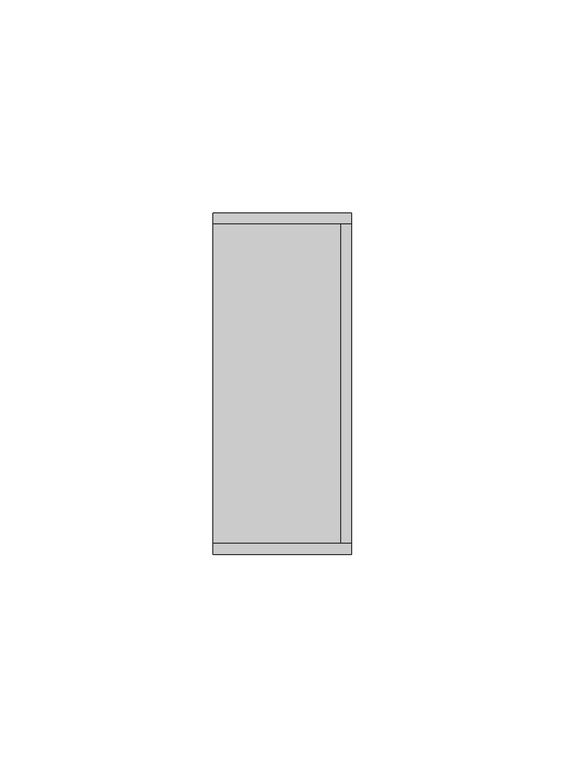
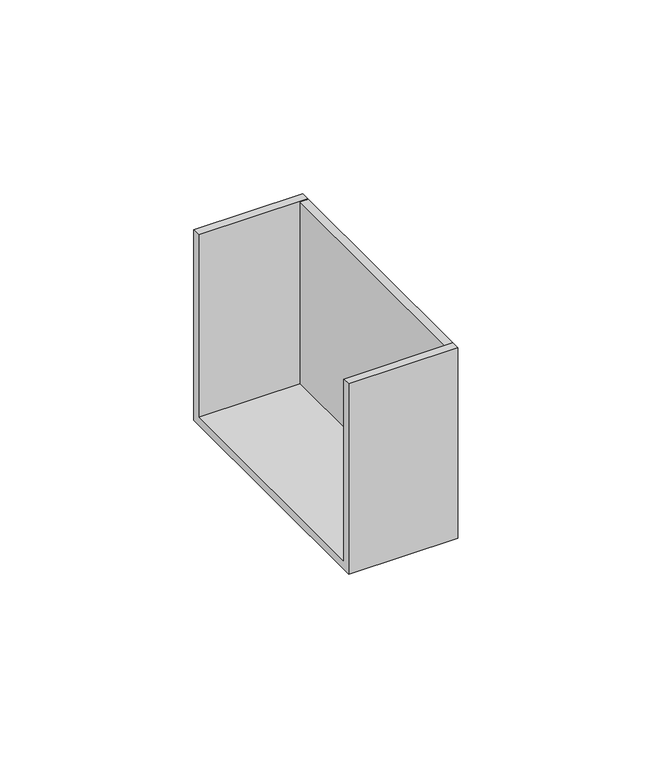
"""IFC4 building model written with IfcOpenShell, lengths in millimetres: cable carrier fitting geometry, КНС_ЗаглушкаТорцеваяLAN_ILC_DKC : Заглушка торцевая LAN_DKC."""

from ifc_helpers import new_model, si_unit, frame, origin, place, context, project, spatial, polyline, outline, extrude, source, transform, mapped, element, save


def cable_carrier_fitting_ef85a075(model_context):
    return source(origin(), model_context, "Body", "SweptSolid", [
        extrude(outline(polyline([(40.0, -30.0), (-40.0, -30.0), (-40.0, 30.0), (-37.5, 30.0), (-37.5, -27.5), (37.5, -27.5), (37.5, 30.0), (40.0, 30.0), (40.0, -30.0)])), frame((-32.5, 0.0, 0.0), z_axis=(1.0, 0.0, 0.0), x_axis=(0.0, 1.0, 0.0)), (0.0, 0.0, 1.0), 32.5),
        extrude(outline(polyline([(0.0, 37.5), (0.0, -37.5), (-2.5, -37.5), (-2.5, 37.5), (0.0, 37.5)])), frame((0.0, 0.0, -30.0), z_axis=(0.0, 0.0, 1.0), x_axis=(1.0, 0.0, 0.0)), (0.0, 0.0, 1.0), 60.0),
    ])


if __name__ == "__main__":
    model = new_model("IFC4")
    model_context = context("Model", 3, world=origin())
    ifc_project = project(units=[si_unit("LENGTHUNIT", "METRE", prefix="MILLI")], contexts=[model_context])
    site = spatial("IfcSite", under=ifc_project)
    building = spatial("IfcBuilding", under=site)
    placement = place(None, origin())
    cable_carrier_fitting_shape = cable_carrier_fitting_ef85a075(model_context)
    element("IfcCableCarrierFitting", 1, ObjectType="КНС_ЗаглушкаТорцеваяLAN_ILC_DKC : Заглушка торцевая LAN_DKC", at=placement, inside=building, context=model_context, shape_type="MappedRepresentation", body=[
        mapped(cable_carrier_fitting_shape, transform((0.0, 0.0, 0.0), x_axis=(1.0, 0.0, 0.0), y_axis=(0.0, 1.0, 0.0), z_axis=(0.0, 0.0, 1.0))),
    ])
    save(model, "model.ifc")
